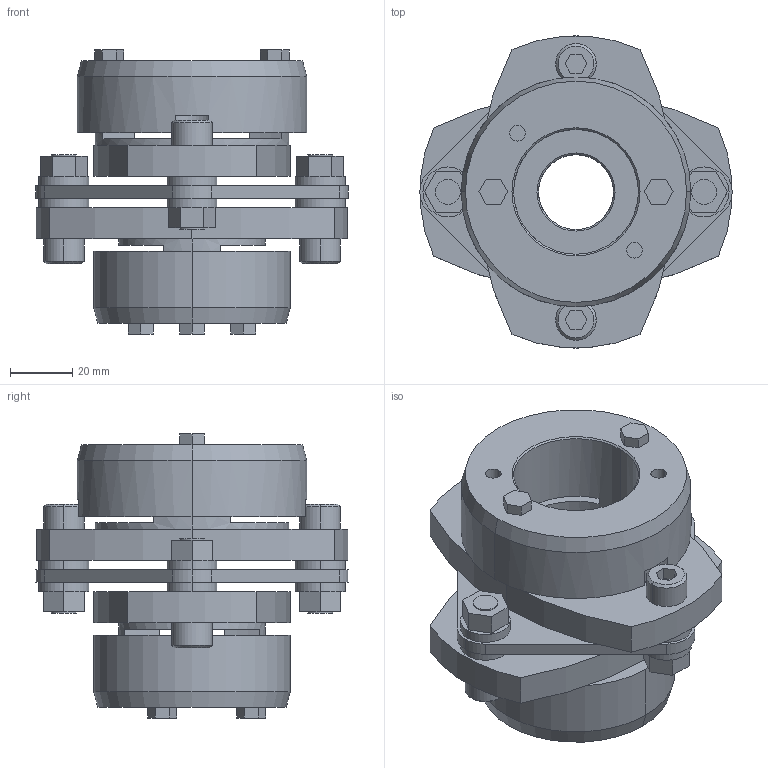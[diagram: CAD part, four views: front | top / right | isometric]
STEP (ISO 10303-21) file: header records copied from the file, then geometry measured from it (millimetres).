
FILE_DESCRIPTION((''),'2;1');
FILE_NAME('LCS-100T7-24×40.stp','2015-11-02T07:43:45',(''),(''),'AutoCAD STEP 2000i','AutoCAD 2000i',', , ');
FILE_SCHEMA(('CONFIG_CONTROL_DESIGN'));
Length unit declared in the file: millimetre
Products named in the file (10): LCS-100T7-25×38; 忣兜1; LC100T7-T038; LC100T7-T035; LC100T7-T030; LC100T7-T025-1; LC100T7-T025; LC100T7-T022-1; LC100T7-T022; LCS100-ITA
Assembly tree (9 placements, depth 2):
  LCS-100T7-25×38
    忣兜1
    LC100T7-T038
    LC100T7-T035
    LC100T7-T030
    LC100T7-T025-1
    LC100T7-T025
    LC100T7-T022-1
    LC100T7-T022
    LCS100-ITA
Bounding box: 100 x 99.93 x 91 mm (x, y, z)
Volume: 256116.9 mm3; surface area: 64151.2 mm2
Topology: 1 solids, 1 shells, 229 faces, 562 edges, 368 vertices
Faces by surface type: plane 127, cylinder 82, cone 20
Entity records: 7037 total; most frequent: DIRECTION 1244, CARTESIAN_POINT 1169, ORIENTED_EDGE 1124, EDGE_CURVE 562, AXIS2_PLACEMENT_3D 443, VERTEX_POINT 368, VECTOR 358, LINE 358
